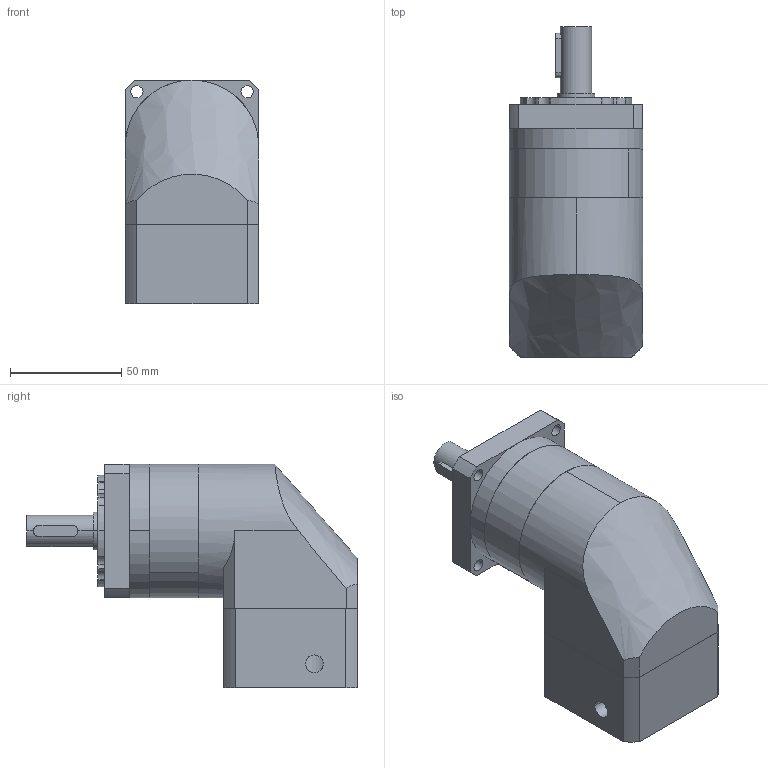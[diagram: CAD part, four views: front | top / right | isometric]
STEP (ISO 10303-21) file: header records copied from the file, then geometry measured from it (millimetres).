
FILE_DESCRIPTION (( 'STEP AP214' ), '1' );
FILE_NAME ('PVFN60-L1.STEP', '2020-09-16T06:01:30', ( '微软用户' ), ( '微软中国' ), 'SwSTEP 2.0', 'SolidWorks 2014', '' );
FILE_SCHEMA (( 'AUTOMOTIVE_DESIGN' ));
Length unit declared in the file: millimetre
Products named in the file (17): PFR60-眊极-揤翉_揤翉; 邧埴瑩  5x5x20; 囀鞠褒蹟佪-M5℅16; PFR60-蟀諉啣; 双列角接触球轴承 5203_2; PFR0-薊粣; PFR60 奻屳唳_D1-70 D2-5.5 D3-14 D4-17 D5-50 L1-30 L2-35 L3-3 A1-60 S1-3 S2-20 S3-5 S4-18 B-5 H-16 C-M5; PFR60 κｳﾝﾈｦ_ﾒｻｼｶﾄﾚｳﾝﾈｦ; PVFN60-L1
Assembly tree (8 placements, depth 2):
  PFR60 κｳﾝﾈｦ_ﾒｻｼｶﾄﾚｳﾝﾈｦ
  PFR60-眊极-揤翉_揤翉
  邧埴瑩  5x5x20
  囀鞠褒蹟佪-M5℅16
  PFR60-蟀諉啣
Bounding box: 60 x 148.5 x 100.5 mm (x, y, z)
Volume: 418312.1 mm3; surface area: 94141.3 mm2
Topology: 8 solids, 8 shells, 520 faces, 1430 edges, 928 vertices
Faces by surface type: cylinder 192, plane 172, bspline 125, cone 31
Entity records: 26079 total; most frequent: CARTESIAN_POINT 7183, ORIENTED_EDGE 2824, DIRECTION 2519, EDGE_CURVE 1412, AXIS2_PLACEMENT_3D 1012, VERTEX_POINT 928, EDGE_LOOP 608, CIRCLE 605
